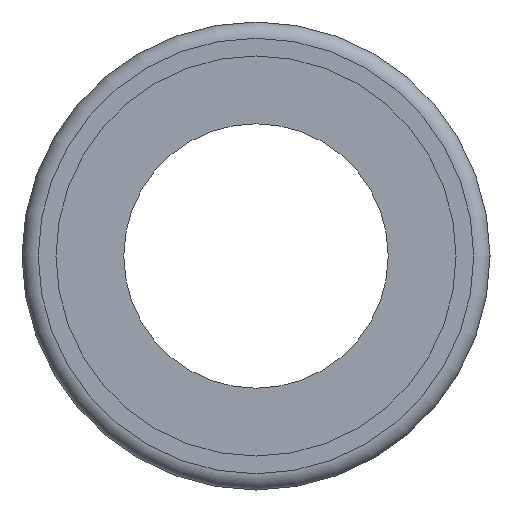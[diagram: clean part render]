
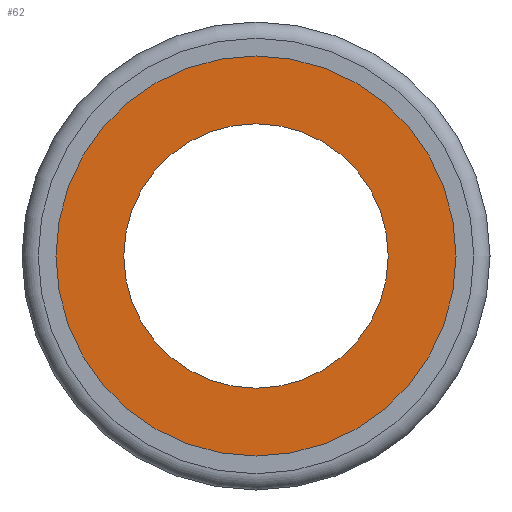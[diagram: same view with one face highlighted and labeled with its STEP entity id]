
A CAD part, left-side view. The second image highlights one B-rep face of the part: STEP entity #62.
In plain terms, the highlighted planar face has unit normal (-1, 0, 0).
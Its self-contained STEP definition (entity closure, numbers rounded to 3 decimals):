
#62 = ADVANCED_FACE( '', ( #135, #136 ), #137, .T. );
#135 = FACE_BOUND( '', #214, .T. );
#136 = FACE_OUTER_BOUND( '', #215, .T. );
#137 = PLANE( '', #216 );
#214 = EDGE_LOOP( '', ( #307 ) );
#215 = EDGE_LOOP( '', ( #308 ) );
#216 = AXIS2_PLACEMENT_3D( '', #309, #310, #311 );
#307 = ORIENTED_EDGE( '', *, *, #359, .F. );
#308 = ORIENTED_EDGE( '', *, *, #364, .T. );
#309 = CARTESIAN_POINT( '', ( 3.05, 8.165, 0. ) );
#310 = DIRECTION( '', ( -1., 0., 0. ) );
#311 = DIRECTION( '', ( 0., 1., 0. ) );
#359 = EDGE_CURVE( '', #398, #398, #399, .T. );
#364 = EDGE_CURVE( '', #406, #406, #407, .T. );
#398 = VERTEX_POINT( '', #452 );
#399 = CIRCLE( '', #453, 6.5 );
#406 = VERTEX_POINT( '', #460 );
#407 = CIRCLE( '', #461, 9.83 );
#452 = CARTESIAN_POINT( '', ( 3.05, 0., 6.5 ) );
#453 = AXIS2_PLACEMENT_3D( '', #507, #508, #509 );
#460 = CARTESIAN_POINT( '', ( 3.05, 0., 9.83 ) );
#461 = AXIS2_PLACEMENT_3D( '', #516, #517, #518 );
#507 = CARTESIAN_POINT( '', ( 3.05, 0., 0. ) );
#508 = DIRECTION( '', ( -1., 0., 0. ) );
#509 = DIRECTION( '', ( 0., 0., 1. ) );
#516 = CARTESIAN_POINT( '', ( 3.05, 0., 0. ) );
#517 = DIRECTION( '', ( -1., 0., 0. ) );
#518 = DIRECTION( '', ( 0., 0., 1. ) );
